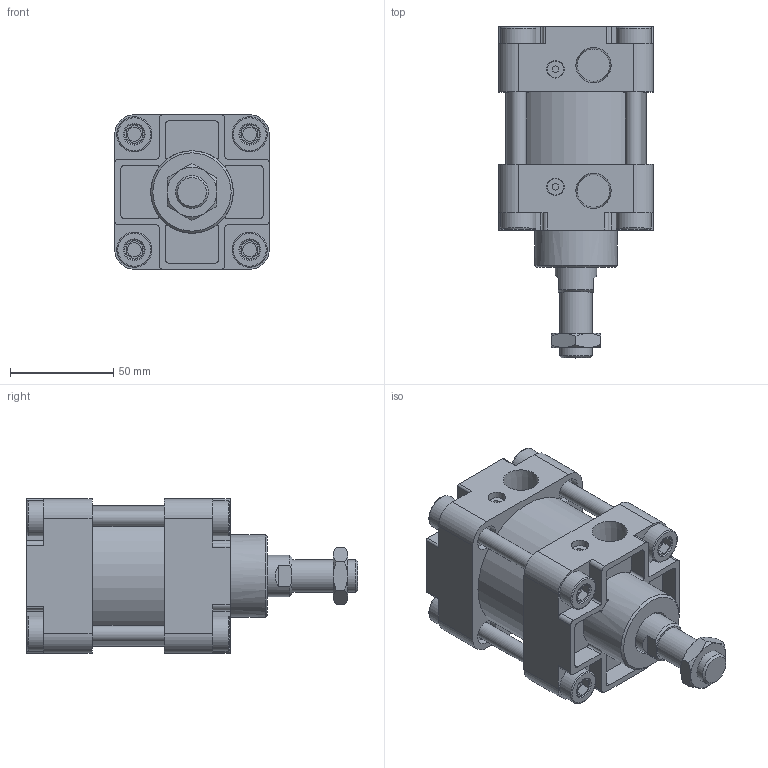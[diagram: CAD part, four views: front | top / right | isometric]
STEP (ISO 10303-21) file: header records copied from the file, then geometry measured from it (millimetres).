
FILE_DESCRIPTION(/* description */ ('Unknown'),/* implementation_level */ '2;1');
FILE_NAME(/* name */ 'WA63-0',/* time_stamp */ '2026-07-17T16:53:38+08:00',/* author */ ('Unknown'),/* organization */ ('Unknown'),/* preprocessor_version */ 'ST-DEVELOPER v16.7',/* originating_system */ 'DEX',/* authorisation */ $);
FILE_SCHEMA (('CONFIG_CONTROL_DESIGN'));
Length unit declared in the file: millimetre
Products named in the file (7): WA63-0; WA63_«áŒè“‹.par:1; WA63_心軸活; WA63_¾TntationRefs; WA63_玡嶈搵; WA63_T帽牙T; M16-1.5P-8_螺
Assembly tree (9 placements, depth 2):
  WA63-0
    WA63_«áŒè“‹.par:1
    WA63_心軸活
    WA63_¾TntationRefs
    WA63_玡嶈搵
    WA63_T帽牙T  x4
    M16-1.5P-8_螺
Bounding box: 75 x 161 x 75 mm (x, y, z)
Volume: 460637.8 mm3; surface area: 114904.6 mm2
Topology: 9 solids, 9 shells, 362 faces, 872 edges, 585 vertices
Faces by surface type: plane 205, cylinder 120, cone 29, torus 8
Full cylindrical faces by diameter (mm): 6.8 x8, 8 x6, 8.5 x2, 12 x8, 12.5 x8, 14.5 x1, 15.806 x2, 16 x1, 17 x8, 20 x2, 40 x1, 62.5 x1, 63 x3, 68 x1
Entity records: 9343 total; most frequent: CARTESIAN_POINT 1369, DIRECTION 1330, ORIENTED_EDGE 1178, EDGE_CURVE 589, AXIS2_PLACEMENT_3D 502, VERTEX_POINT 413, EDGE_LOOP 348, FACE_BOUND 348
